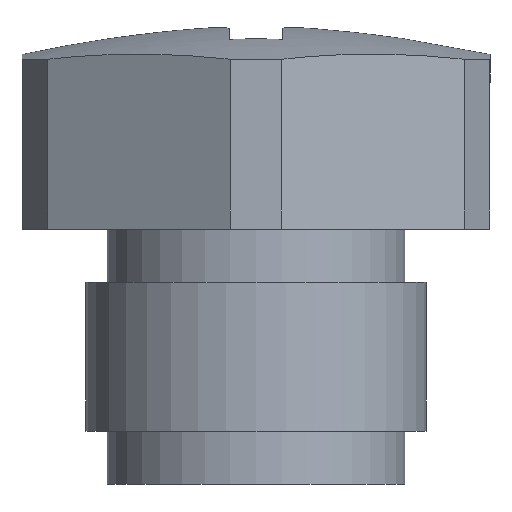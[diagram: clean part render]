
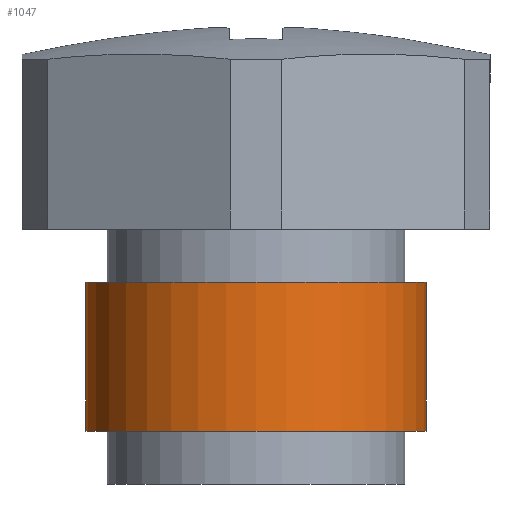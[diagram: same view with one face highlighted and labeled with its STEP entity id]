
A CAD part, front view. The second image highlights one B-rep face of the part: STEP entity #1047.
In plain terms, the highlighted cylindrical face has radius 4 mm (diameter 8 mm), a full revolution.
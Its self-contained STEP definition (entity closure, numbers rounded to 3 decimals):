
#1013=CARTESIAN_POINT('',(-13.951,11.451,-4.75));
#1014=VERTEX_POINT('',#1013);
#1015=CARTESIAN_POINT('',(-15.951,7.987,-4.75));
#1016=DIRECTION('',(0.0,0.0,1.));
#1017=DIRECTION('',(0.5,0.866,0.0));
#1018=AXIS2_PLACEMENT_3D('',#1015,#1016,#1017);
#1019=CIRCLE('',#1018,4.);
#1020=EDGE_CURVE('',#1014,#1014,#1019,.T.);
#1028=CARTESIAN_POINT('',(-15.951,7.987,-3.));
#1029=DIRECTION('',(0.0,0.0,1.0));
#1030=DIRECTION('',(0.5,0.866,0.0));
#1031=AXIS2_PLACEMENT_3D('',#1028,#1029,#1030);
#1032=CYLINDRICAL_SURFACE('',#1031,4.);
#1033=CARTESIAN_POINT('',(-13.951,11.451,-1.25));
#1034=VERTEX_POINT('',#1033);
#1035=CARTESIAN_POINT('',(-15.951,7.987,-1.25));
#1036=DIRECTION('',(0.0,0.0,1.));
#1037=DIRECTION('',(0.5,0.866,0.0));
#1038=AXIS2_PLACEMENT_3D('',#1035,#1036,#1037);
#1039=CIRCLE('',#1038,4.);
#1040=EDGE_CURVE('',#1034,#1034,#1039,.T.);
#1041=ORIENTED_EDGE('',*,*,#1040,.F.);
#1042=EDGE_LOOP('',(#1041));
#1043=FACE_OUTER_BOUND('',#1042,.T.);
#1044=ORIENTED_EDGE('',*,*,#1020,.T.);
#1045=EDGE_LOOP('',(#1044));
#1046=FACE_BOUND('',#1045,.T.);
#1047=ADVANCED_FACE('',(#1043,#1046),#1032,.T.);
